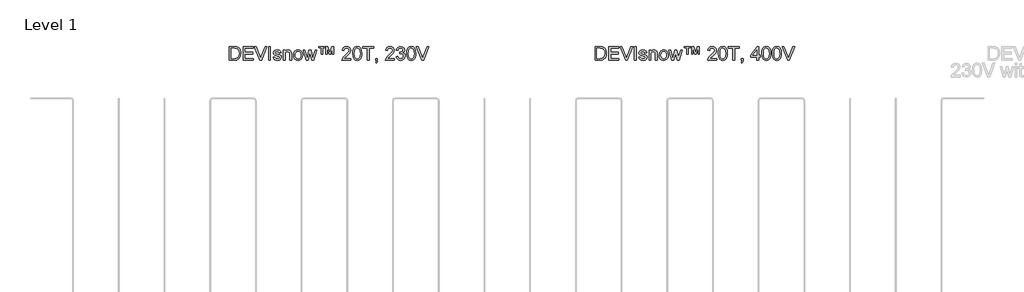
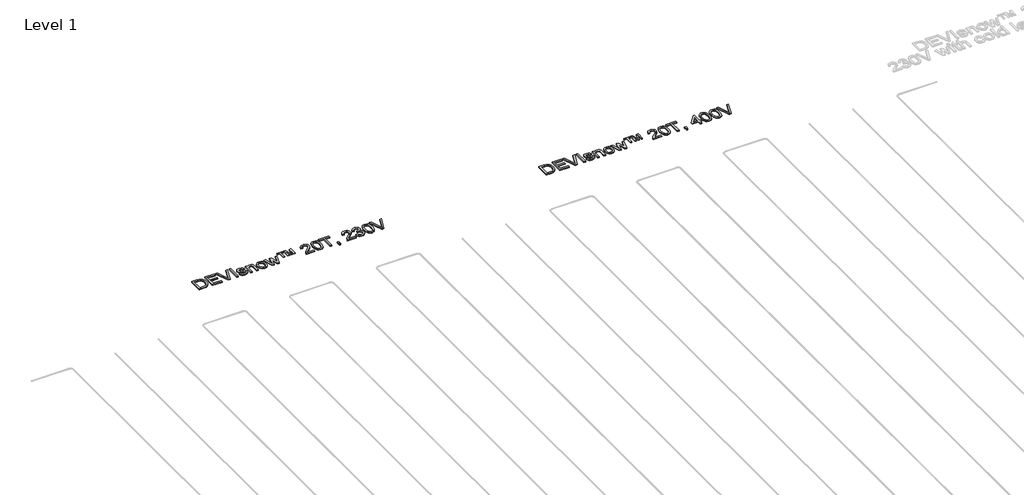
# One storey, part 16 of 26: 2 proxies.
"""IFC4 building model written with IfcOpenShell, lengths in millimetres."""

from ifc_helpers import new_model, si_unit, origin, origin_with_axes, place, context, project, spatial, polyline, outline, extrude, element, save

model = new_model("IFC4")

# Units and contexts
model_context = context("Model", 3, world=origin())
ifc_project = project(units=[si_unit("LENGTHUNIT", "METRE", prefix="MILLI")], contexts=[model_context])

# Site, building, storey
site = spatial("IfcSite", under=ifc_project)
building = spatial("IfcBuilding", under=site)
storey = spatial("IfcBuildingStorey", under=building, Name="Level 1", Elevation=0.0)

# Proxies
placement = place(None, origin())
element("IfcBuildingElementProxy", 1, Name="150mm", ObjectType="150mm", at=placement, inside=storey, context=model_context, shape_type="SweptSolid", body=[
    extrude(outline(polyline([(5122.4707437, -17520.7202), (5122.4707437, -17370.0357347), (5174.4524696, -17370.0357347), (5201.3446435, -17372.2062385), (5223.4911396, -17382.985181), (5233.9113971, -17394.4630992), (5241.3334164, -17408.7369206), (5245.7755915, -17425.5307337), (5247.2563165, -17444.568627), (5243.2464027, -17474.9740739), (5232.9457069, -17496.9182349), (5219.1869203, -17510.585051), (5201.1790966, -17518.145026), (5176.9540672, -17520.7202), (5122.4707437, -17520.7202)]), holes=[polyline([(5141.3063019, -17501.8846418), (5174.6364106, -17501.8846418), (5198.8798341, -17499.162315), (5212.8593499, -17491.4735813), (5224.3188741, -17472.7667819), (5228.4207583, -17444.2743214), (5226.4112029, -17423.746506), (5220.3825367, -17408.5897678), (5211.4751939, -17398.1787074), (5200.8296087, -17391.8879252), (5174.1213758, -17388.8712929), (5141.3063019, -17388.8712929), (5141.3063019, -17501.8846418)])]), origin_with_axes(), (0.0, 0.0, 1.0), 10.0),
    extrude(outline(polyline([(5273.1552089, -17520.7202), (5273.1552089, -17370.0357347), (5381.4596683, -17370.0357347), (5381.4596683, -17388.8712929), (5291.9907671, -17388.8712929), (5291.9907671, -17433.6057435), (5376.7507788, -17433.6057435), (5376.7507788, -17452.4413017), (5291.9907671, -17452.4413017), (5291.9907671, -17501.8846418), (5383.8141131, -17501.8846418), (5383.8141131, -17520.7202), (5273.1552089, -17520.7202)])), origin_with_axes(), (0.0, 0.0, 1.0), 10.0),
    extrude(outline(polyline([(5456.5811717, -17520.7202), (5396.6164065, -17370.0357347), (5416.7763399, -17370.0357347), (5456.9122655, -17478.5977115), (5465.0424576, -17503.0618642), (5473.0622851, -17478.5977115), (5513.3085754, -17370.0357347), (5533.4685087, -17370.0357347), (5476.0421293, -17520.7202), (5456.5811717, -17520.7202)])), origin_with_axes(), (0.0, 0.0, 1.0), 10.0),
    extrude(outline(polyline([(5553.3341365, -17520.7202), (5553.3341365, -17370.0357347), (5572.1696946, -17370.0357347), (5572.1696946, -17520.7202), (5553.3341365, -17520.7202)])), origin_with_axes(), (0.0, 0.0, 1.0), 10.0),
    extrude(outline(polyline([(5600.4230319, -17487.7579732), (5619.25859, -17485.4035284), (5622.2292371, -17493.4601441), (5627.9773933, -17499.3830442), (5647.9533856, -17504.2390866), (5667.1568258, -17499.7877144), (5673.4108197, -17489.3398658), (5671.8381242, -17484.5390057), (5667.1200376, -17480.8785799), (5647.7326564, -17475.5075028), (5619.3689546, -17466.2920588), (5606.9897255, -17455.5315104), (5602.7774766, -17440.337984), (5606.161991, -17426.3032859), (5615.3958291, -17415.5795257), (5627.370388, -17410.0061135), (5643.5755899, -17407.706851), (5666.4946382, -17411.4040651), (5681.0627652, -17421.4104554), (5687.5374883, -17438.314633), (5668.7019302, -17440.6690778), (5661.6202018, -17430.2764114), (5645.0471179, -17426.5424092), (5627.0209001, -17430.1108645), (5621.6130348, -17438.4249976), (5623.8571149, -17443.9064394), (5630.8836611, -17448.0635059), (5647.107257, -17452.0734197), (5674.753589, -17460.9393757), (5687.5926706, -17470.9825542), (5692.2463778, -17487.353303), (5686.7833302, -17505.3795208), (5671.0195867, -17518.4577257), (5647.6958682, -17523.0746447), (5628.7039602, -17520.8489587), (5614.8440061, -17514.1719004), (5605.5917739, -17503.1170465), (5600.4230319, -17487.7579732)])), origin_with_axes(), (0.0, 0.0, 1.0), 10.0),
    extrude(outline(polyline([(5713.4363808, -17520.7202), (5713.4363808, -17410.0612958), (5732.2719389, -17410.0612958), (5732.2719389, -17425.5123396), (5746.674519, -17412.1582232), (5766.3378117, -17407.706851), (5784.1249061, -17411.2937005), (5796.265012, -17420.7114796), (5801.9120006, -17434.5622367), (5802.905282, -17452.7723954), (5802.905282, -17520.7202), (5784.0697238, -17520.7202), (5784.0697238, -17455.3107812), (5781.8992201, -17438.6457268), (5774.2288805, -17429.834953), (5761.2978283, -17426.5424092), (5750.265967, -17428.3910162), (5740.8619835, -17433.9368373), (5734.4194501, -17444.6514004), (5732.2719389, -17462.0062335), (5732.2719389, -17520.7202), (5713.4363808, -17520.7202)])), origin_with_axes(), (0.0, 0.0, 1.0), 10.0),
    extrude(outline(polyline([(5824.0952849, -17465.3907479), (5828.169578, -17438.7101062), (5840.3924573, -17419.9573215), (5855.4940132, -17410.7694686), (5873.5754133, -17407.706851), (5893.3628661, -17411.4362548), (5909.1679963, -17422.6244659), (5919.528473, -17440.3885678), (5922.9819652, -17463.8456435), (5921.4552549, -17482.8743397), (5916.8751241, -17497.3596933), (5909.3749299, -17508.2076136), (5899.0880296, -17516.3240101), (5886.8697489, -17521.3869861), (5873.5754133, -17523.0746447), (5853.5488372, -17519.3590366), (5837.762101, -17508.2122121), (5827.511989, -17490.0756298), (5824.0952849, -17465.3907479)]), holes=[polyline([(5842.9308431, -17465.3539597), (5845.1105439, -17482.4006916), (5851.6496464, -17494.545396), (5861.4904897, -17501.8156639), (5873.5754133, -17504.2390866), (5885.6051545, -17501.8018684), (5895.4276038, -17494.4902137), (5901.9667062, -17482.184561), (5904.1464071, -17464.7653485), (5901.9529107, -17448.2152572), (5895.3724215, -17436.2360998), (5885.5361766, -17428.9658318), (5873.5754133, -17426.5424092), (5861.4904897, -17428.9566348), (5851.6496464, -17436.1993116), (5845.1105439, -17448.3164248), (5842.9308431, -17465.3539597)])]), origin_with_axes(), (0.0, 0.0, 1.0), 10.0),
    extrude(outline(polyline([(5962.5292797, -17520.7202), (5928.8680771, -17410.0612958), (5948.4393993, -17410.0612958), (5967.5324748, -17474.624586), (5973.2346458, -17497.6907871), (5977.9067471, -17475.4707146), (5993.1002735, -17410.0612958), (6015.5410752, -17410.0612958), (6030.6610252, -17475.2867736), (6034.8180918, -17495.4099187), (6040.7777801, -17474.1831276), (6059.9076438, -17410.0612958), (6079.5525424, -17410.0612958), (6045.6338224, -17520.7202), (6022.8619269, -17520.7202), (6008.4041645, -17455.825816), (6004.2103098, -17435.5923063), (5985.5586926, -17520.7202), (5962.5292797, -17520.7202)])), origin_with_axes(), (0.0, 0.0, 1.0), 10.0),
    extrude(outline(polyline([(6127.8186601, -17454.7957464), (6127.8186601, -17384.1624033), (6099.5653229, -17384.1624033), (6099.5653229, -17370.0357347), (6170.198666, -17370.0357347), (6170.198666, -17384.1624033), (6141.9453288, -17384.1624033), (6141.9453288, -17454.7957464), (6127.8186601, -17454.7957464)])), origin_with_axes(), (0.0, 0.0, 1.0), 10.0),
    extrude(outline(polyline([(6179.6164451, -17454.7957464), (6179.6164451, -17370.0357347), (6200.5121424, -17370.0357347), (6222.0700273, -17438.0939038), (6243.3703948, -17370.0357347), (6264.3764567, -17370.0357347), (6264.3764567, -17454.7957464), (6250.2497881, -17454.7957464), (6250.2497881, -17385.1924729), (6229.0597852, -17454.7957464), (6214.9331166, -17454.7957464), (6193.7431137, -17384.1624033), (6193.7431137, -17454.7957464), (6179.6164451, -17454.7957464)])), origin_with_axes(), (0.0, 0.0, 1.0), 10.0),
    extrude(outline(polyline([(6452.7320383, -17501.8846418), (6452.7320383, -17520.7202), (6353.845358, -17520.7202), (6355.8687089, -17507.7339655), (6367.309839, -17487.7395791), (6390.8910749, -17465.9057827), (6423.4118433, -17434.5254485), (6429.5094873, -17423.7097178), (6431.5420354, -17413.1882928), (6429.6244505, -17403.7567181), (6423.8716958, -17395.9162331), (6415.0287323, -17390.6325279), (6403.8405211, -17388.8712929), (6392.0912899, -17390.5911412), (6382.9632179, -17395.7506862), (6377.0725074, -17403.9452576), (6375.0353609, -17414.7701853), (6356.1998027, -17412.4157406), (6360.766138, -17394.1963848), (6370.6391711, -17380.8882536), (6385.3038671, -17372.7488644), (6404.2451913, -17370.0357347), (6423.3244713, -17373.0523671), (6437.9615762, -17382.1022642), (6447.2735892, -17395.6219275), (6450.3775935, -17412.0478586), (6447.0298674, -17429.9085294), (6435.901437, -17448.3762056), (6408.9172927, -17474.1831276), (6387.2490431, -17492.3013158), (6378.750969, -17501.8846418), (6452.7320383, -17501.8846418)])), origin_with_axes(), (0.0, 0.0, 1.0), 10.0),
    extrude(outline(polyline([(6471.5675964, -17446.5919779), (6472.9517524, -17422.4727146), (6477.1042205, -17403.2370848), (6483.9836138, -17388.5907829), (6493.5485456, -17378.2395032), (6505.867994, -17372.0866769), (6521.0109366, -17370.0357347), (6543.0102799, -17374.8917771), (6558.2038063, -17388.889687), (6567.0329742, -17411.1833359), (6570.4542767, -17446.5919779), (6569.0839163, -17470.5732855), (6564.972835, -17489.7629301), (6558.1348284, -17504.4230276), (6548.5836921, -17514.8156939), (6536.2366527, -17521.009907), (6521.0109366, -17523.0746447), (6501.4396144, -17519.4877953), (6486.5771818, -17508.7272469), (6475.3199928, -17483.2422217), (6471.5675964, -17446.5919779)]), holes=[polyline([(6490.4031546, -17446.5551897), (6492.6104466, -17476.1834859), (6499.2323225, -17493.3313854), (6509.0915599, -17501.5121613), (6521.0109366, -17504.2390866), (6532.9303132, -17501.5029642), (6542.7895507, -17493.2945972), (6549.4114266, -17476.1375007), (6551.6187186, -17446.5551897), (6549.485003, -17417.5936797), (6543.0838563, -17400.3124229), (6533.2430129, -17391.7315754), (6520.7902074, -17388.8712929), (6508.9995894, -17391.3912846), (6499.5266281, -17398.9512596), (6492.684023, -17417.3085711), (6490.4031546, -17446.5551897)])]), origin_with_axes(), (0.0, 0.0, 1.0), 10.0),
    extrude(outline(polyline([(6631.6698407, -17520.7202), (6631.6698407, -17388.8712929), (6582.2265006, -17388.8712929), (6582.2265006, -17370.0357347), (6699.948739, -17370.0357347), (6699.948739, -17388.8712929), (6650.5053989, -17388.8712929), (6650.5053989, -17520.7202), (6631.6698407, -17520.7202)])), origin_with_axes(), (0.0, 0.0, 1.0), 10.0),
    extrude(outline(polyline([(6723.4931867, -17520.7202), (6723.4931867, -17501.8846418), (6742.3287449, -17501.8846418), (6742.3287449, -17520.7202), (6738.9442305, -17539.9788224), (6728.2020763, -17551.327982), (6723.4931867, -17544.2646476), (6730.4093682, -17536.1344556), (6732.8741776, -17520.7202), (6723.4931867, -17520.7202)])), origin_with_axes(), (0.0, 0.0, 1.0), 10.0),
    extrude(outline(polyline([(6928.3298816, -17501.8846418), (6928.3298816, -17520.7202), (6829.4432013, -17520.7202), (6831.4665523, -17507.7339655), (6842.9076824, -17487.7395791), (6866.4889183, -17465.9057827), (6899.0096866, -17434.5254485), (6905.1073307, -17423.7097178), (6907.1398787, -17413.1882928), (6905.2222938, -17403.7567181), (6899.4695391, -17395.9162331), (6890.6265757, -17390.6325279), (6879.4383645, -17388.8712929), (6867.6891333, -17390.5911412), (6858.5610613, -17395.7506862), (6852.6703508, -17403.9452576), (6850.6332043, -17414.7701853), (6831.7976461, -17412.4157406), (6836.3639814, -17394.1963848), (6846.2370144, -17380.8882536), (6860.9017105, -17372.7488644), (6879.8430347, -17370.0357347), (6898.9223147, -17373.0523671), (6913.5594195, -17382.1022642), (6922.8714325, -17395.6219275), (6925.9754369, -17412.0478586), (6922.6277107, -17429.9085294), (6911.4992804, -17448.3762056), (6884.515136, -17474.1831276), (6862.8468865, -17492.3013158), (6854.3488124, -17501.8846418), (6928.3298816, -17501.8846418)])), origin_with_axes(), (0.0, 0.0, 1.0), 10.0),
    extrude(outline(polyline([(6947.1654398, -17480.6946389), (6966.0009979, -17478.3401941), (6970.2178453, -17490.1767973), (6976.3936643, -17498.1690337), (6984.8319576, -17502.7215733), (6995.8362278, -17504.2390866), (7008.7488858, -17502.1513563), (7018.7184879, -17495.8881653), (7025.0920434, -17486.5439626), (7027.2165619, -17475.2131972), (7025.1104375, -17464.4572473), (7018.7920643, -17455.7338455), (7009.2271324, -17449.9534997), (6997.3813321, -17448.0267177), (6984.1743685, -17450.0868569), (6986.2712959, -17431.2512987), (6989.2879282, -17431.4720279), (7010.6618722, -17426.0641626), (7017.7803888, -17419.2031634), (7020.1532276, -17409.4358964), (7018.4333793, -17401.3011058), (7013.2738343, -17394.7022225), (7005.4011596, -17390.3290253), (6995.5419222, -17388.8712929), (6985.6642906, -17390.3428209), (6977.5892808, -17394.7574048), (6971.6939718, -17402.1150447), (6968.3554427, -17412.4157406), (6949.5198846, -17410.0612958), (6955.0657056, -17393.1479211), (6964.9341402, -17380.5203716), (6978.4354094, -17372.6568939), (6994.8797346, -17370.0357347), (7017.5964478, -17375.2044768), (7033.48895, -17389.3311454), (7038.9887858, -17408.3322504), (7033.7648615, -17425.6962806), (7018.3138177, -17438.1674802), (7030.1044356, -17442.9315521), (7038.841633, -17451.0433501), (7044.2494983, -17462.0614158), (7046.0521201, -17475.544291), (7042.4468765, -17493.9016025), (7031.6311459, -17509.2422817), (7015.3063824, -17519.616554), (6995.1740402, -17523.0746447), (6976.9638814, -17520.1223917), (6962.138237, -17511.2656327), (6951.8283441, -17497.7183782), (6947.1654398, -17480.6946389)])), origin_with_axes(), (0.0, 0.0, 1.0), 10.0),
    extrude(outline(polyline([(7062.5332335, -17446.5919779), (7063.9173895, -17422.4727146), (7068.0698575, -17403.2370848), (7074.9492508, -17388.5907829), (7084.5141827, -17378.2395032), (7096.833631, -17372.0866769), (7111.9765736, -17370.0357347), (7133.9759169, -17374.8917771), (7149.1694433, -17388.889687), (7157.9986112, -17411.1833359), (7161.4199138, -17446.5919779), (7160.0495534, -17470.5732855), (7155.9384721, -17489.7629301), (7149.1004655, -17504.4230276), (7139.5493292, -17514.8156939), (7127.2022897, -17521.009907), (7111.9765736, -17523.0746447), (7092.4052515, -17519.4877953), (7077.5428189, -17508.7272469), (7066.2856298, -17483.2422217), (7062.5332335, -17446.5919779)]), holes=[polyline([(7081.3687916, -17446.5551897), (7083.5760836, -17476.1834859), (7090.1979595, -17493.3313854), (7100.057197, -17501.5121613), (7111.9765736, -17504.2390866), (7123.8959503, -17501.5029642), (7133.7551877, -17493.2945972), (7140.3770637, -17476.1375007), (7142.5843556, -17446.5551897), (7140.4506401, -17417.5936797), (7134.0494933, -17400.3124229), (7124.20865, -17391.7315754), (7111.7558444, -17388.8712929), (7099.9652265, -17391.3912846), (7090.4922651, -17398.9512596), (7083.64966, -17417.3085711), (7081.3687916, -17446.5551897)])]), origin_with_axes(), (0.0, 0.0, 1.0), 10.0),
    extrude(outline(polyline([(7229.4780829, -17520.7202), (7169.5133177, -17370.0357347), (7189.673251, -17370.0357347), (7229.8091767, -17478.5977115), (7237.9393688, -17503.0618642), (7245.9591963, -17478.5977115), (7286.2054866, -17370.0357347), (7306.3654199, -17370.0357347), (7248.9390404, -17520.7202), (7229.4780829, -17520.7202)])), origin_with_axes(), (0.0, 0.0, 1.0), 10.0),
])
element("IfcBuildingElementProxy", 2, Name="150mm", ObjectType="150mm", at=placement, inside=storey, context=model_context, shape_type="SweptSolid", body=[
    extrude(outline(polyline([(9122.4707437, -17520.7202), (9122.4707437, -17370.0357347), (9174.4524696, -17370.0357347), (9201.3446435, -17372.2062385), (9223.4911396, -17382.985181), (9233.9113971, -17394.4630992), (9241.3334164, -17408.7369206), (9245.7755915, -17425.5307337), (9247.2563165, -17444.568627), (9243.2464027, -17474.9740739), (9232.9457069, -17496.9182349), (9219.1869203, -17510.585051), (9201.1790966, -17518.145026), (9176.9540672, -17520.7202), (9122.4707437, -17520.7202)]), holes=[polyline([(9141.3063019, -17501.8846418), (9174.6364106, -17501.8846418), (9198.8798341, -17499.162315), (9212.8593499, -17491.4735813), (9224.3188741, -17472.7667819), (9228.4207583, -17444.2743214), (9226.4112029, -17423.746506), (9220.3825367, -17408.5897678), (9211.4751939, -17398.1787074), (9200.8296087, -17391.8879252), (9174.1213758, -17388.8712929), (9141.3063019, -17388.8712929), (9141.3063019, -17501.8846418)])]), origin_with_axes(), (0.0, 0.0, 1.0), 10.0),
    extrude(outline(polyline([(9273.1552089, -17520.7202), (9273.1552089, -17370.0357347), (9381.4596683, -17370.0357347), (9381.4596683, -17388.8712929), (9291.9907671, -17388.8712929), (9291.9907671, -17433.6057435), (9376.7507788, -17433.6057435), (9376.7507788, -17452.4413017), (9291.9907671, -17452.4413017), (9291.9907671, -17501.8846418), (9383.8141131, -17501.8846418), (9383.8141131, -17520.7202), (9273.1552089, -17520.7202)])), origin_with_axes(), (0.0, 0.0, 1.0), 10.0),
    extrude(outline(polyline([(9456.5811717, -17520.7202), (9396.6164065, -17370.0357347), (9416.7763399, -17370.0357347), (9456.9122655, -17478.5977115), (9465.0424576, -17503.0618642), (9473.0622851, -17478.5977115), (9513.3085754, -17370.0357347), (9533.4685087, -17370.0357347), (9476.0421293, -17520.7202), (9456.5811717, -17520.7202)])), origin_with_axes(), (0.0, 0.0, 1.0), 10.0),
    extrude(outline(polyline([(9553.3341365, -17520.7202), (9553.3341365, -17370.0357347), (9572.1696946, -17370.0357347), (9572.1696946, -17520.7202), (9553.3341365, -17520.7202)])), origin_with_axes(), (0.0, 0.0, 1.0), 10.0),
    extrude(outline(polyline([(9600.4230319, -17487.7579732), (9619.25859, -17485.4035284), (9622.2292371, -17493.4601441), (9627.9773933, -17499.3830442), (9647.9533856, -17504.2390866), (9667.1568258, -17499.7877144), (9673.4108197, -17489.3398658), (9671.8381242, -17484.5390057), (9667.1200376, -17480.8785799), (9647.7326564, -17475.5075028), (9619.3689546, -17466.2920588), (9606.9897255, -17455.5315104), (9602.7774766, -17440.337984), (9606.161991, -17426.3032859), (9615.3958291, -17415.5795257), (9627.370388, -17410.0061135), (9643.5755899, -17407.706851), (9666.4946382, -17411.4040651), (9681.0627652, -17421.4104554), (9687.5374883, -17438.314633), (9668.7019302, -17440.6690778), (9661.6202018, -17430.2764114), (9645.0471179, -17426.5424092), (9627.0209001, -17430.1108645), (9621.6130348, -17438.4249976), (9623.8571149, -17443.9064394), (9630.8836611, -17448.0635059), (9647.107257, -17452.0734197), (9674.753589, -17460.9393757), (9687.5926706, -17470.9825542), (9692.2463778, -17487.353303), (9686.7833302, -17505.3795208), (9671.0195867, -17518.4577257), (9647.6958682, -17523.0746447), (9628.7039602, -17520.8489587), (9614.8440061, -17514.1719004), (9605.5917739, -17503.1170465), (9600.4230319, -17487.7579732)])), origin_with_axes(), (0.0, 0.0, 1.0), 10.0),
    extrude(outline(polyline([(9713.4363808, -17520.7202), (9713.4363808, -17410.0612958), (9732.2719389, -17410.0612958), (9732.2719389, -17425.5123396), (9746.674519, -17412.1582232), (9766.3378117, -17407.706851), (9784.1249061, -17411.2937005), (9796.265012, -17420.7114796), (9801.9120006, -17434.5622367), (9802.905282, -17452.7723954), (9802.905282, -17520.7202), (9784.0697238, -17520.7202), (9784.0697238, -17455.3107812), (9781.8992201, -17438.6457268), (9774.2288805, -17429.834953), (9761.2978283, -17426.5424092), (9750.265967, -17428.3910162), (9740.8619835, -17433.9368373), (9734.4194501, -17444.6514004), (9732.2719389, -17462.0062335), (9732.2719389, -17520.7202), (9713.4363808, -17520.7202)])), origin_with_axes(), (0.0, 0.0, 1.0), 10.0),
    extrude(outline(polyline([(9824.0952849, -17465.3907479), (9828.169578, -17438.7101062), (9840.3924573, -17419.9573215), (9855.4940132, -17410.7694686), (9873.5754133, -17407.706851), (9893.3628661, -17411.4362548), (9909.1679963, -17422.6244659), (9919.528473, -17440.3885678), (9922.9819652, -17463.8456435), (9921.4552549, -17482.8743397), (9916.8751241, -17497.3596933), (9909.3749299, -17508.2076136), (9899.0880296, -17516.3240101), (9886.8697489, -17521.3869861), (9873.5754133, -17523.0746447), (9853.5488372, -17519.3590366), (9837.762101, -17508.2122121), (9827.511989, -17490.0756298), (9824.0952849, -17465.3907479)]), holes=[polyline([(9842.9308431, -17465.3539597), (9845.1105439, -17482.4006916), (9851.6496464, -17494.545396), (9861.4904897, -17501.8156639), (9873.5754133, -17504.2390866), (9885.6051545, -17501.8018684), (9895.4276038, -17494.4902137), (9901.9667062, -17482.184561), (9904.1464071, -17464.7653485), (9901.9529107, -17448.2152572), (9895.3724215, -17436.2360998), (9885.5361766, -17428.9658318), (9873.5754133, -17426.5424092), (9861.4904897, -17428.9566348), (9851.6496464, -17436.1993116), (9845.1105439, -17448.3164248), (9842.9308431, -17465.3539597)])]), origin_with_axes(), (0.0, 0.0, 1.0), 10.0),
    extrude(outline(polyline([(9962.5292797, -17520.7202), (9928.8680771, -17410.0612958), (9948.4393993, -17410.0612958), (9967.5324748, -17474.624586), (9973.2346458, -17497.6907871), (9977.9067471, -17475.4707146), (9993.1002735, -17410.0612958), (10015.5410752, -17410.0612958), (10030.6610252, -17475.2867736), (10034.8180918, -17495.4099187), (10040.7777801, -17474.1831276), (10059.9076438, -17410.0612958), (10079.5525424, -17410.0612958), (10045.6338224, -17520.7202), (10022.8619269, -17520.7202), (10008.4041645, -17455.825816), (10004.2103098, -17435.5923063), (9985.5586926, -17520.7202), (9962.5292797, -17520.7202)])), origin_with_axes(), (0.0, 0.0, 1.0), 10.0),
    extrude(outline(polyline([(10127.8186601, -17454.7957464), (10127.8186601, -17384.1624033), (10099.5653229, -17384.1624033), (10099.5653229, -17370.0357347), (10170.198666, -17370.0357347), (10170.198666, -17384.1624033), (10141.9453288, -17384.1624033), (10141.9453288, -17454.7957464), (10127.8186601, -17454.7957464)])), origin_with_axes(), (0.0, 0.0, 1.0), 10.0),
    extrude(outline(polyline([(10179.6164451, -17454.7957464), (10179.6164451, -17370.0357347), (10200.5121424, -17370.0357347), (10222.0700273, -17438.0939038), (10243.3703948, -17370.0357347), (10264.3764567, -17370.0357347), (10264.3764567, -17454.7957464), (10250.2497881, -17454.7957464), (10250.2497881, -17385.1924729), (10229.0597852, -17454.7957464), (10214.9331166, -17454.7957464), (10193.7431137, -17384.1624033), (10193.7431137, -17454.7957464), (10179.6164451, -17454.7957464)])), origin_with_axes(), (0.0, 0.0, 1.0), 10.0),
    extrude(outline(polyline([(10452.7320383, -17501.8846418), (10452.7320383, -17520.7202), (10353.845358, -17520.7202), (10355.8687089, -17507.7339655), (10367.309839, -17487.7395791), (10390.8910749, -17465.9057827), (10423.4118433, -17434.5254485), (10429.5094873, -17423.7097178), (10431.5420354, -17413.1882928), (10429.6244505, -17403.7567181), (10423.8716958, -17395.9162331), (10415.0287323, -17390.6325279), (10403.8405211, -17388.8712929), (10392.0912899, -17390.5911412), (10382.9632179, -17395.7506862), (10377.0725074, -17403.9452576), (10375.0353609, -17414.7701853), (10356.1998027, -17412.4157406), (10360.766138, -17394.1963848), (10370.6391711, -17380.8882536), (10385.3038671, -17372.7488644), (10404.2451913, -17370.0357347), (10423.3244713, -17373.0523671), (10437.9615762, -17382.1022642), (10447.2735892, -17395.6219275), (10450.3775935, -17412.0478586), (10447.0298674, -17429.9085294), (10435.901437, -17448.3762056), (10408.9172927, -17474.1831276), (10387.2490431, -17492.3013158), (10378.750969, -17501.8846418), (10452.7320383, -17501.8846418)])), origin_with_axes(), (0.0, 0.0, 1.0), 10.0),
    extrude(outline(polyline([(10471.5675964, -17446.5919779), (10472.9517524, -17422.4727146), (10477.1042205, -17403.2370848), (10483.9836138, -17388.5907829), (10493.5485456, -17378.2395032), (10505.867994, -17372.0866769), (10521.0109366, -17370.0357347), (10543.0102799, -17374.8917771), (10558.2038063, -17388.889687), (10567.0329742, -17411.1833359), (10570.4542767, -17446.5919779), (10569.0839163, -17470.5732855), (10564.972835, -17489.7629301), (10558.1348284, -17504.4230276), (10548.5836921, -17514.8156939), (10536.2366527, -17521.009907), (10521.0109366, -17523.0746447), (10501.4396144, -17519.4877953), (10486.5771818, -17508.7272469), (10475.3199928, -17483.2422217), (10471.5675964, -17446.5919779)]), holes=[polyline([(10490.4031546, -17446.5551897), (10492.6104466, -17476.1834859), (10499.2323225, -17493.3313854), (10509.0915599, -17501.5121613), (10521.0109366, -17504.2390866), (10532.9303132, -17501.5029642), (10542.7895507, -17493.2945972), (10549.4114266, -17476.1375007), (10551.6187186, -17446.5551897), (10549.485003, -17417.5936797), (10543.0838563, -17400.3124229), (10533.2430129, -17391.7315754), (10520.7902074, -17388.8712929), (10508.9995894, -17391.3912846), (10499.5266281, -17398.9512596), (10492.684023, -17417.3085711), (10490.4031546, -17446.5551897)])]), origin_with_axes(), (0.0, 0.0, 1.0), 10.0),
    extrude(outline(polyline([(10631.6698407, -17520.7202), (10631.6698407, -17388.8712929), (10582.2265006, -17388.8712929), (10582.2265006, -17370.0357347), (10699.948739, -17370.0357347), (10699.948739, -17388.8712929), (10650.5053989, -17388.8712929), (10650.5053989, -17520.7202), (10631.6698407, -17520.7202)])), origin_with_axes(), (0.0, 0.0, 1.0), 10.0),
    extrude(outline(polyline([(10723.4931867, -17520.7202), (10723.4931867, -17501.8846418), (10742.3287449, -17501.8846418), (10742.3287449, -17520.7202), (10738.9442305, -17539.9788224), (10728.2020763, -17551.327982), (10723.4931867, -17544.2646476), (10730.4093682, -17536.1344556), (10732.8741776, -17520.7202), (10723.4931867, -17520.7202)])), origin_with_axes(), (0.0, 0.0, 1.0), 10.0),
    extrude(outline(polyline([(10893.0132101, -17520.7202), (10893.0132101, -17485.4035284), (10824.7343118, -17485.4035284), (10824.7343118, -17466.5679703), (10897.7220996, -17372.3901795), (10911.8487683, -17372.3901795), (10911.8487683, -17466.5679703), (10930.6843264, -17466.5679703), (10930.6843264, -17485.4035284), (10911.8487683, -17485.4035284), (10911.8487683, -17520.7202), (10893.0132101, -17520.7202)]), holes=[polyline([(10893.0132101, -17466.5679703), (10893.0132101, -17408.3690386), (10847.9108775, -17466.5679703), (10893.0132101, -17466.5679703)])]), origin_with_axes(), (0.0, 0.0, 1.0), 10.0),
    extrude(outline(polyline([(10947.1654398, -17446.5919779), (10948.5495958, -17422.4727146), (10952.7020638, -17403.2370848), (10959.5814571, -17388.5907829), (10969.146389, -17378.2395032), (10981.4658373, -17372.0866769), (10996.6087799, -17370.0357347), (11018.6081233, -17374.8917771), (11033.8016497, -17388.889687), (11042.6308175, -17411.1833359), (11046.0521201, -17446.5919779), (11044.6817597, -17470.5732855), (11040.5706784, -17489.7629301), (11033.7326718, -17504.4230276), (11024.1815355, -17514.8156939), (11011.834496, -17521.009907), (10996.6087799, -17523.0746447), (10977.0374578, -17519.4877953), (10962.1750252, -17508.7272469), (10950.9178361, -17483.2422217), (10947.1654398, -17446.5919779)]), holes=[polyline([(10966.0009979, -17446.5551897), (10968.2082899, -17476.1834859), (10974.8301658, -17493.3313854), (10984.6894033, -17501.5121613), (10996.6087799, -17504.2390866), (11008.5281566, -17501.5029642), (11018.3873941, -17493.2945972), (11025.00927, -17476.1375007), (11027.2165619, -17446.5551897), (11025.0828464, -17417.5936797), (11018.6816997, -17400.3124229), (11008.8408563, -17391.7315754), (10996.3880508, -17388.8712929), (10984.5974328, -17391.3912846), (10975.1244714, -17398.9512596), (10968.2818663, -17417.3085711), (10966.0009979, -17446.5551897)])]), origin_with_axes(), (0.0, 0.0, 1.0), 10.0),
    extrude(outline(polyline([(11062.5332335, -17446.5919779), (11063.9173895, -17422.4727146), (11068.0698575, -17403.2370848), (11074.9492508, -17388.5907829), (11084.5141827, -17378.2395032), (11096.833631, -17372.0866769), (11111.9765736, -17370.0357347), (11133.9759169, -17374.8917771), (11149.1694433, -17388.889687), (11157.9986112, -17411.1833359), (11161.4199138, -17446.5919779), (11160.0495534, -17470.5732855), (11155.9384721, -17489.7629301), (11149.1004655, -17504.4230276), (11139.5493292, -17514.8156939), (11127.2022897, -17521.009907), (11111.9765736, -17523.0746447), (11092.4052515, -17519.4877953), (11077.5428189, -17508.7272469), (11066.2856298, -17483.2422217), (11062.5332335, -17446.5919779)]), holes=[polyline([(11081.3687916, -17446.5551897), (11083.5760836, -17476.1834859), (11090.1979595, -17493.3313854), (11100.057197, -17501.5121613), (11111.9765736, -17504.2390866), (11123.8959503, -17501.5029642), (11133.7551877, -17493.2945972), (11140.3770637, -17476.1375007), (11142.5843556, -17446.5551897), (11140.4506401, -17417.5936797), (11134.0494933, -17400.3124229), (11124.20865, -17391.7315754), (11111.7558444, -17388.8712929), (11099.9652265, -17391.3912846), (11090.4922651, -17398.9512596), (11083.64966, -17417.3085711), (11081.3687916, -17446.5551897)])]), origin_with_axes(), (0.0, 0.0, 1.0), 10.0),
    extrude(outline(polyline([(11229.4780829, -17520.7202), (11169.5133177, -17370.0357347), (11189.673251, -17370.0357347), (11229.8091767, -17478.5977115), (11237.9393688, -17503.0618642), (11245.9591963, -17478.5977115), (11286.2054866, -17370.0357347), (11306.3654199, -17370.0357347), (11248.9390404, -17520.7202), (11229.4780829, -17520.7202)])), origin_with_axes(), (0.0, 0.0, 1.0), 10.0),
])

save(model, "model.ifc")
